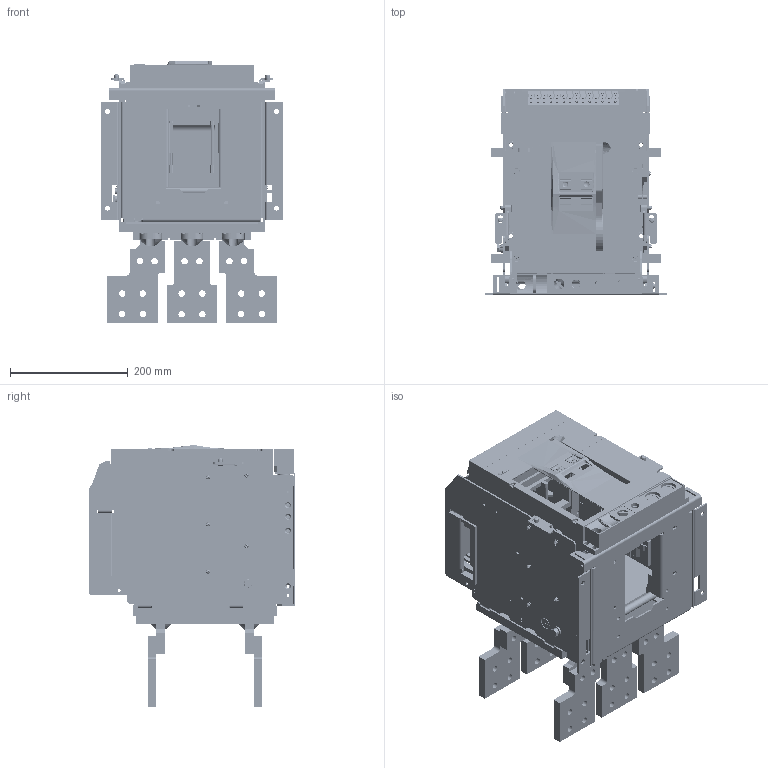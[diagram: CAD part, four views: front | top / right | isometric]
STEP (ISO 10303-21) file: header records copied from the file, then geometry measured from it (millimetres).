
FILE_DESCRIPTION((''),'2;1');
FILE_NAME('NA8G-1600-1600-DO-3P-H_ASM','2019-05-21T14:30:52',('lcc'),(''),'CREO PARAMETRIC BY PTC INC, 2018020','CREO PARAMETRIC BY PTC INC, 2018020','');
FILE_SCHEMA(('CONFIG_CONTROL_DESIGN','SHAPE_APPEARANCE_LAYERS_GROUPS'));
Products named in the file (58): 8-024-504; 8-300-164; 8-141-125; 8-860-349; 8-441-081; 8-200-099; 8-236-064; 5-203-058_ASM; 8-145-063; 8-211-092; 5-024-172_ASM; 8-050-244; 8-960-058; 8-960-056; 8-960-057; 8-960-060; 8-960-059; 8-127-020; 8-125-057; 8-123-120; 8-261-001; 8-125-001; 8-210-176; 5-124-010_ASM; 8-233-301; GBT97_1-4; GBT93-4; GBT818-M4X10; GBT845-ST4_2X9_5C; GBT6170-M8; 5-050-095_ASM; 8-050-243; 8-261-002; 8-125-002; 5-124-011_ASM; GBT97_1-8; GBT93-8; GBT5783-M8X16; 5-050-096_ASM; 8-300-166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
Assembly tree (114 placements, depth 4):
  NA8G-1600-1600-DO-3P-H_ASM
    5-024-172_ASM
      8-024-504
      8-300-164
      8-141-125
      8-860-349
      8-441-081
      5-203-058_ASM
        8-200-099
        8-236-064  x2
      8-145-063  x2
      8-211-092
    5-050-095_ASM
      8-050-244
      8-960-058
      8-960-056
      8-960-057
      8-960-060
      8-960-059
      8-127-020
      8-125-057
      8-123-120
      5-124-010_ASM
        8-261-001
        8-125-001
        8-210-176
      8-233-301
      GBT97_1-4  x5
      GBT93-4  x5
      GBT818-M4X10  x5
      GBT845-ST4_2X9_5C
      GBT6170-M8  x2
    5-050-096_ASM
      8-050-243
      8-125-057
      8-123-120
      5-124-011_ASM
        8-261-002
        8-125-002
        8-210-176
      GBT6170-M8  x2
      GBT97_1-4  x5
      GBT93-4  x5
      GBT818-M4X10  x5
      GBT97_1-8  x2
      GBT93-8
      GBT5783-M8X16
    8-300-166
    8-015-021
    8ZTD-043-780
    8ZTD-043-781
    8-300-162-2
    8-253-348
    8-253-349
    8-253-309
    5-235-147
    1600-DIJIA-3P
    8ZTD-580-199-3  x2
    8ZTD-580-200-3  x4
    1600-DUANZI-CTS_ASM
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Bounding box: 308 x 351 x 445 mm (x, y, z)
Volume: 7571253.6 mm3; surface area: 2074904.6 mm2
Topology: 107 solids, 153 shells, 7262 faces, 19884 edges, 13084 vertices
Faces by surface type: plane 5270, cylinder 1729, cone 102, bspline 74, torus 54, sphere 32, extrusion 1
Entity records: 178250 total; most frequent: CARTESIAN_POINT 27370, ORIENTED_EDGE 24642, DIRECTION 24273, EDGE_CURVE 12332, PRESENTATION_STYLE_ASSIGNMENT 10208, STYLED_ITEM 10168, CURVE_STYLE 9995, VECTOR 9465
